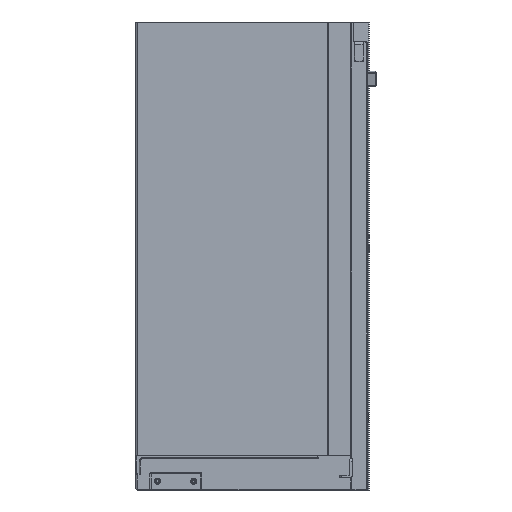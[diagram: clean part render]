
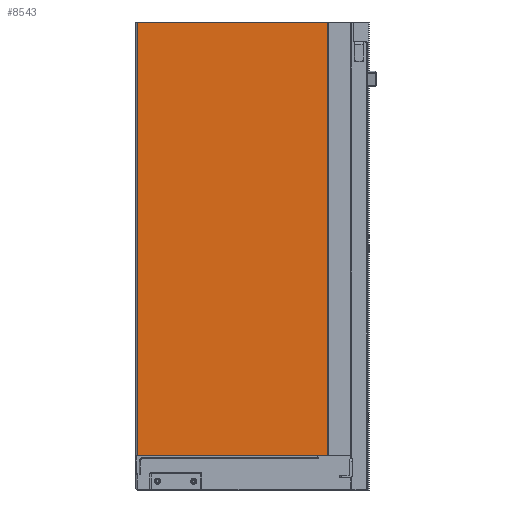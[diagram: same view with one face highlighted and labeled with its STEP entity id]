
A CAD part, left-side view. The second image highlights one B-rep face of the part: STEP entity #8543.
In plain terms, the highlighted planar face has unit normal (-1, 0, 0).
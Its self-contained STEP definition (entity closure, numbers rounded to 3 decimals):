
#243 = VERTEX_POINT ( 'NONE', #1939 ) ;
#740 = LINE ( 'NONE', #9487, #3659 ) ;
#1757 = VERTEX_POINT ( 'NONE', #3400 ) ;
#1939 = CARTESIAN_POINT ( 'NONE',  ( -25.5, 141.8, -323.5 ) ) ;
#2118 = ORIENTED_EDGE ( 'NONE', *, *, #12155, .F. ) ;
#2212 = LINE ( 'NONE', #3665, #2522 ) ;
#2522 = VECTOR ( 'NONE', #10539, 1000. ) ;
#2588 = DIRECTION ( 'NONE',  ( 0., 1., 0. ) ) ;
#3302 = VECTOR ( 'NONE', #4092, 1000. ) ;
#3400 = CARTESIAN_POINT ( 'NONE',  ( -25.5, 0., -323.5 ) ) ;
#3473 = FACE_OUTER_BOUND ( 'NONE', #8688, .T. ) ;
#3659 = VECTOR ( 'NONE', #2588, 1000. ) ;
#3665 = CARTESIAN_POINT ( 'NONE',  ( -25.5, 141.8, -412.455 ) ) ;
#4092 = DIRECTION ( 'NONE',  ( 0., 1., 0. ) ) ;
#4351 = CARTESIAN_POINT ( 'NONE',  ( -25.5, 141.8, 0. ) ) ;
#5145 = CARTESIAN_POINT ( 'NONE',  ( -25.5, 0., -412.455 ) ) ;
#5424 = PLANE ( 'NONE',  #9932 ) ;
#5921 = VECTOR ( 'NONE', #6121, 1000. ) ;
#6118 = VERTEX_POINT ( 'NONE', #12057 ) ;
#6121 = DIRECTION ( 'NONE',  ( 0., 0., 1. ) ) ;
#6404 = DIRECTION ( 'NONE',  ( 0., 0., 1. ) ) ;
#6782 = ORIENTED_EDGE ( 'NONE', *, *, #9462, .F. ) ;
#7360 = CARTESIAN_POINT ( 'NONE',  ( -25.5, 0., -412.455 ) ) ;
#7407 = EDGE_CURVE ( 'NONE', #6118, #9632, #740, .T. ) ;
#7637 = LINE ( 'NONE', #9999, #3302 ) ;
#8543 = ADVANCED_FACE ( 'NONE', ( #3473 ), #5424, .T. ) ;
#8688 = EDGE_LOOP ( 'NONE', ( #2118, #6782, #12517, #11657 ) ) ;
#9462 = EDGE_CURVE ( 'NONE', #1757, #243, #7637, .T. ) ;
#9487 = CARTESIAN_POINT ( 'NONE',  ( -25.5, 0., 0. ) ) ;
#9632 = VERTEX_POINT ( 'NONE', #4351 ) ;
#9816 = EDGE_CURVE ( 'NONE', #1757, #6118, #11148, .T. ) ;
#9932 = AXIS2_PLACEMENT_3D ( 'NONE', #7360, #12287, #6404 ) ;
#9999 = CARTESIAN_POINT ( 'NONE',  ( -25.5, 0., -323.5 ) ) ;
#10539 = DIRECTION ( 'NONE',  ( 0., 0., 1. ) ) ;
#11148 = LINE ( 'NONE', #5145, #5921 ) ;
#11657 = ORIENTED_EDGE ( 'NONE', *, *, #7407, .T. ) ;
#12057 = CARTESIAN_POINT ( 'NONE',  ( -25.5, 0., 0. ) ) ;
#12155 = EDGE_CURVE ( 'NONE', #243, #9632, #2212, .T. ) ;
#12287 = DIRECTION ( 'NONE',  ( -1., 0., 0. ) ) ;
#12517 = ORIENTED_EDGE ( 'NONE', *, *, #9816, .T. ) ;
